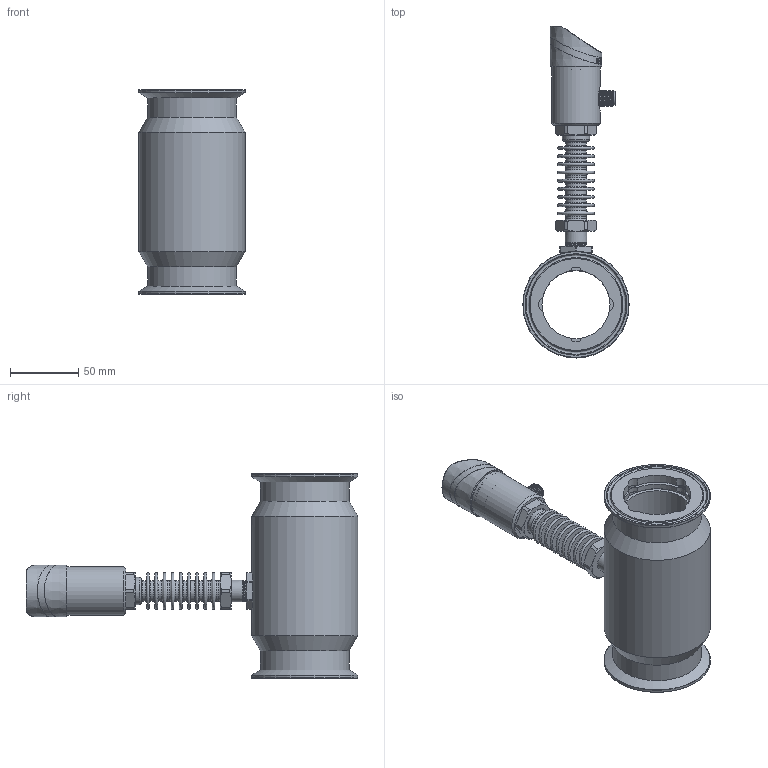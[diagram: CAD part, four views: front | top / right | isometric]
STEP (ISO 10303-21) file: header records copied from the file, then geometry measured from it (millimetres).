
FILE_DESCRIPTION( (''), '2;1');
FILE_NAME( 'QTKE_DN50_tri-clamp_high-temp.step', '2024-10-15T08:13:31+08:00', (''), (''), '', '', '');
FILE_SCHEMA (('AUTOMOTIVE_DESIGN { 1 0 10303 214 3 1 1 1 }'));
Length unit declared in the file: millimetre
Products named in the file (1): QTKE DN50_tri-clamp_high-temp
Bounding box: 78 x 243.5 x 150 mm (x, y, z)
Volume: 393688.8 mm3; surface area: 114900.9 mm2
Topology: 5 solids, 5 shells, 1062 faces, 2701 edges, 1742 vertices
Faces by surface type: plane 427, cylinder 208, extrusion 160, cone 117, torus 70, bspline 59, sphere 21
Full cylindrical faces by diameter (mm): 1.689 x1, 2 x1, 2.7 x6, 3.5 x5, 12 x1, 13 x1, 15 x10, 15.9 x1, 17.581 x1, 20 x1, 23 x3, 26 x5, 31.7 x1, 32 x1, 34 x1, 34.2 x1, 35.5 x2, 50 x1, 55 x4, 65 x2, 78 x3
Entity records: 46617 total; most frequent: CARTESIAN_POINT 18221, ORIENTED_EDGE 4970, DIRECTION 4504, EDGE_CURVE 2485, VERTEX_POINT 1682, AXIS2_PLACEMENT_3D 1655, EDGE_LOOP 1321, VECTOR 1194
